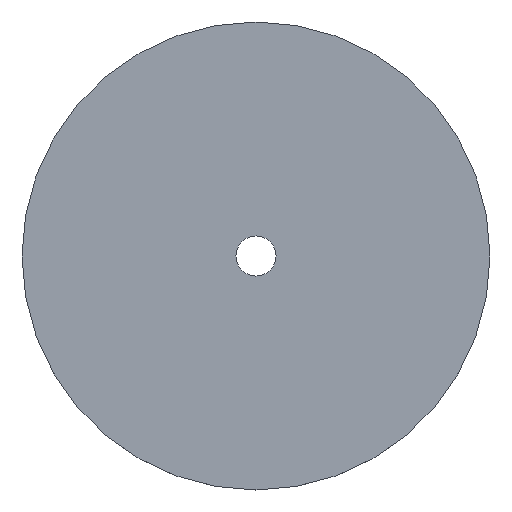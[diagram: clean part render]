
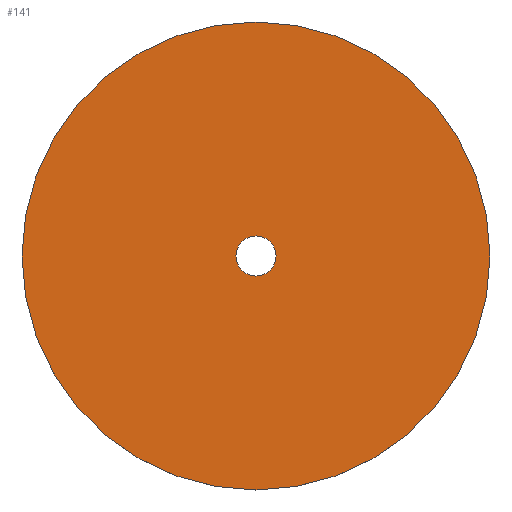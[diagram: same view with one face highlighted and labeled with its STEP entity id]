
A CAD part, top view. The second image highlights one B-rep face of the part: STEP entity #141.
In plain terms, the highlighted planar face has unit normal (0, 0, 1).
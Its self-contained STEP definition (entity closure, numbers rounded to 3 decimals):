
#5 = ORIENTED_EDGE ( 'NONE', *, *, #130, .T. ) ;
#8 = CIRCLE ( 'NONE', #188, 15. ) ;
#12 = CIRCLE ( 'NONE', #104, 175. ) ;
#20 = VERTEX_POINT ( 'NONE', #97 ) ;
#26 = EDGE_CURVE ( 'NONE', #124, #174, #8, .T. ) ;
#27 = CARTESIAN_POINT ( 'NONE',  ( 0., 0., 8. ) ) ;
#32 = DIRECTION ( 'NONE',  ( 0., 0., 1. ) ) ;
#41 = CARTESIAN_POINT ( 'NONE',  ( 175., 0., 8. ) ) ;
#43 = AXIS2_PLACEMENT_3D ( 'NONE', #75, #32, #45 ) ;
#45 = DIRECTION ( 'NONE',  ( 1., 0., 0. ) ) ;
#48 = ORIENTED_EDGE ( 'NONE', *, *, #176, .T. ) ;
#55 = DIRECTION ( 'NONE',  ( 1., 0., 0. ) ) ;
#63 = EDGE_LOOP ( 'NONE', ( #156, #136 ) ) ;
#75 = CARTESIAN_POINT ( 'NONE',  ( 0., 0., 8. ) ) ;
#77 = CIRCLE ( 'NONE', #43, 175. ) ;
#79 = VERTEX_POINT ( 'NONE', #41 ) ;
#84 = CARTESIAN_POINT ( 'NONE',  ( 0., 0., 8. ) ) ;
#86 = CARTESIAN_POINT ( 'NONE',  ( -15., 0., 8. ) ) ;
#90 = EDGE_CURVE ( 'NONE', #174, #124, #93, .T. ) ;
#93 = CIRCLE ( 'NONE', #158, 15. ) ;
#94 = DIRECTION ( 'NONE',  ( 1., 0., 0. ) ) ;
#97 = CARTESIAN_POINT ( 'NONE',  ( -175., 0., 8. ) ) ;
#98 = CARTESIAN_POINT ( 'NONE',  ( 0., 0., 8. ) ) ;
#104 = AXIS2_PLACEMENT_3D ( 'NONE', #98, #129, #94 ) ;
#110 = DIRECTION ( 'NONE',  ( 0., 0., 1. ) ) ;
#112 = FACE_OUTER_BOUND ( 'NONE', #138, .T. ) ;
#115 = FACE_BOUND ( 'NONE', #63, .T. ) ;
#117 = AXIS2_PLACEMENT_3D ( 'NONE', #27, #110, #55 ) ;
#119 = CARTESIAN_POINT ( 'NONE',  ( 15., 0., 8. ) ) ;
#124 = VERTEX_POINT ( 'NONE', #86 ) ;
#128 = DIRECTION ( 'NONE',  ( 1., 0., 0. ) ) ;
#129 = DIRECTION ( 'NONE',  ( 0., 0., 1. ) ) ;
#130 = EDGE_CURVE ( 'NONE', #79, #20, #12, .T. ) ;
#136 = ORIENTED_EDGE ( 'NONE', *, *, #90, .F. ) ;
#138 = EDGE_LOOP ( 'NONE', ( #48, #5 ) ) ;
#141 = ADVANCED_FACE ( 'NONE', ( #112, #115 ), #145, .T. ) ;
#145 = PLANE ( 'NONE',  #117 ) ;
#156 = ORIENTED_EDGE ( 'NONE', *, *, #26, .F. ) ;
#158 = AXIS2_PLACEMENT_3D ( 'NONE', #84, #184, #128 ) ;
#165 = DIRECTION ( 'NONE',  ( 1., 0., 0. ) ) ;
#174 = VERTEX_POINT ( 'NONE', #119 ) ;
#176 = EDGE_CURVE ( 'NONE', #20, #79, #77, .T. ) ;
#179 = DIRECTION ( 'NONE',  ( 0., 0., 1. ) ) ;
#184 = DIRECTION ( 'NONE',  ( 0., 0., 1. ) ) ;
#188 = AXIS2_PLACEMENT_3D ( 'NONE', #194, #179, #165 ) ;
#194 = CARTESIAN_POINT ( 'NONE',  ( 0., 0., 8. ) ) ;
